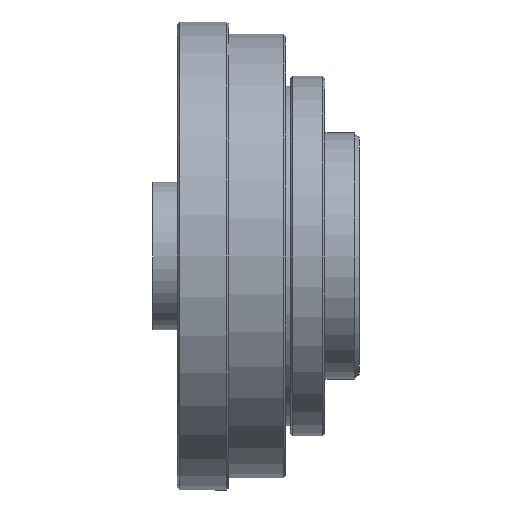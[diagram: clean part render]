
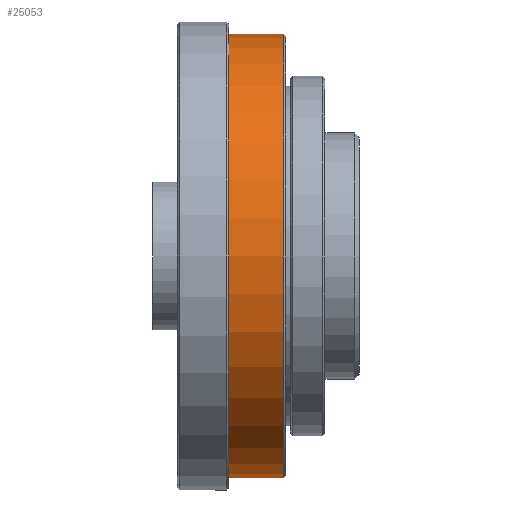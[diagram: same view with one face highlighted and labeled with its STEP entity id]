
A CAD part, front view. The second image highlights one B-rep face of the part: STEP entity #25053.
In plain terms, the highlighted cylindrical face has radius 45 mm (diameter 90 mm), a full revolution.
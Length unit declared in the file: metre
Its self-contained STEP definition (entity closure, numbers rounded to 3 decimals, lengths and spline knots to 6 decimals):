
#399 = CARTESIAN_POINT ( 'NONE',  ( -0.0154, 0., 0. ) ) ;
#2284 = ORIENTED_EDGE ( 'NONE', *, *, #48539, .T. ) ;
#2310 = AXIS2_PLACEMENT_3D ( 'NONE', #399, #27997, #39280 ) ;
#10395 = CYLINDRICAL_SURFACE ( 'NONE', #44460, 0.045 ) ;
#12527 = AXIS2_PLACEMENT_3D ( 'NONE', #28587, #44240, #26898 ) ;
#14186 = CIRCLE ( 'NONE', #12527, 0.045 ) ;
#14732 = DIRECTION ( 'NONE',  ( -1., 0., 0. ) ) ;
#16388 = VERTEX_POINT ( 'NONE', #39909 ) ;
#18773 = ORIENTED_EDGE ( 'NONE', *, *, #34063, .T. ) ;
#18948 = EDGE_LOOP ( 'NONE', ( #18773 ) ) ;
#24177 = VERTEX_POINT ( 'NONE', #28742 ) ;
#25053 = ADVANCED_FACE ( 'NONE', ( #30315, #25731 ), #10395, .T. ) ;
#25731 = FACE_OUTER_BOUND ( 'NONE', #18948, .T. ) ;
#26898 = DIRECTION ( 'NONE',  ( 0., 0., 1. ) ) ;
#27372 = EDGE_LOOP ( 'NONE', ( #2284 ) ) ;
#27997 = DIRECTION ( 'NONE',  ( -1., 0., 0. ) ) ;
#28587 = CARTESIAN_POINT ( 'NONE',  ( -0.0286, 0., 0. ) ) ;
#28742 = CARTESIAN_POINT ( 'NONE',  ( -0.0154, 0., 0.045 ) ) ;
#30315 = FACE_OUTER_BOUND ( 'NONE', #27372, .T. ) ;
#33355 = CIRCLE ( 'NONE', #2310, 0.045 ) ;
#34063 = EDGE_CURVE ( 'NONE', #24177, #24177, #33355, .T. ) ;
#39280 = DIRECTION ( 'NONE',  ( 0., 0., 1. ) ) ;
#39909 = CARTESIAN_POINT ( 'NONE',  ( -0.0286, 0., 0.045 ) ) ;
#44240 = DIRECTION ( 'NONE',  ( 1., 0., 0. ) ) ;
#44460 = AXIS2_PLACEMENT_3D ( 'NONE', #45952, #14732, #49295 ) ;
#45952 = CARTESIAN_POINT ( 'NONE',  ( -0.029, 0., 0. ) ) ;
#48539 = EDGE_CURVE ( 'NONE', #16388, #16388, #14186, .T. ) ;
#49295 = DIRECTION ( 'NONE',  ( 0., 0., 1. ) ) ;
